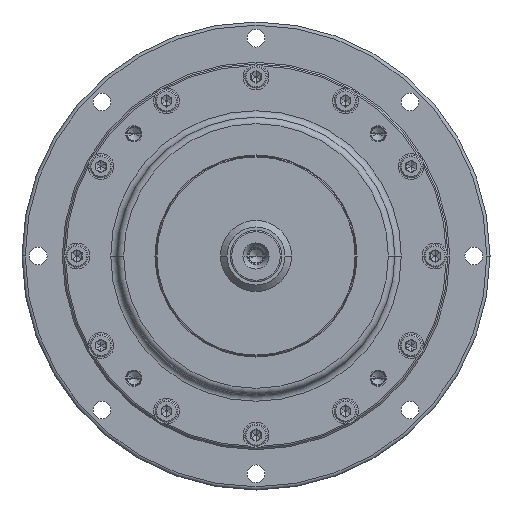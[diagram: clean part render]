
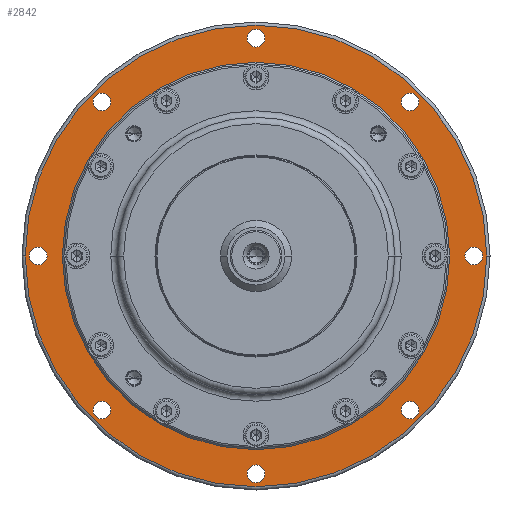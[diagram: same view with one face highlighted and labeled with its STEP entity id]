
A CAD part, left-side view. The second image highlights one B-rep face of the part: STEP entity #2842.
In plain terms, the highlighted planar face has unit normal (-1, 0, 0).
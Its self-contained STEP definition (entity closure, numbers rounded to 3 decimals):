
#181=CARTESIAN_POINT('',(-8.,47.73,-47.73));
#182=DIRECTION('',(-1.,0.,0.));
#183=DIRECTION('',(0.,-1.,0.));
#184=AXIS2_PLACEMENT_3D('',#181,#182,#183);
#186=CARTESIAN_POINT('',(-8.,47.73,-47.73));
#187=DIRECTION('',(-1.,0.,0.));
#188=DIRECTION('',(0.,1.,0.));
#189=AXIS2_PLACEMENT_3D('',#186,#187,#188);
#191=CARTESIAN_POINT('',(-8.,0.,-67.5));
#192=DIRECTION('',(-1.,0.,0.));
#193=DIRECTION('',(0.,-1.,0.));
#194=AXIS2_PLACEMENT_3D('',#191,#192,#193);
#196=CARTESIAN_POINT('',(-8.,0.,-67.5));
#197=DIRECTION('',(-1.,0.,0.));
#198=DIRECTION('',(0.,1.,0.));
#199=AXIS2_PLACEMENT_3D('',#196,#197,#198);
#201=CARTESIAN_POINT('',(-8.,-47.73,-47.73));
#202=DIRECTION('',(-1.,0.,0.));
#203=DIRECTION('',(0.,-1.,0.));
#204=AXIS2_PLACEMENT_3D('',#201,#202,#203);
#206=CARTESIAN_POINT('',(-8.,-47.73,-47.73));
#207=DIRECTION('',(-1.,0.,0.));
#208=DIRECTION('',(0.,1.,0.));
#209=AXIS2_PLACEMENT_3D('',#206,#207,#208);
#211=CARTESIAN_POINT('',(-8.,-67.5,0.));
#212=DIRECTION('',(-1.,0.,0.));
#213=DIRECTION('',(0.,-1.,0.));
#214=AXIS2_PLACEMENT_3D('',#211,#212,#213);
#216=CARTESIAN_POINT('',(-8.,-67.5,0.));
#217=DIRECTION('',(-1.,0.,0.));
#218=DIRECTION('',(0.,1.,0.));
#219=AXIS2_PLACEMENT_3D('',#216,#217,#218);
#221=CARTESIAN_POINT('',(-8.,-47.73,47.73));
#222=DIRECTION('',(-1.,0.,0.));
#223=DIRECTION('',(0.,-1.,0.));
#224=AXIS2_PLACEMENT_3D('',#221,#222,#223);
#226=CARTESIAN_POINT('',(-8.,-47.73,47.73));
#227=DIRECTION('',(-1.,0.,0.));
#228=DIRECTION('',(0.,1.,0.));
#229=AXIS2_PLACEMENT_3D('',#226,#227,#228);
#231=CARTESIAN_POINT('',(-8.,0.,67.5));
#232=DIRECTION('',(-1.,0.,0.));
#233=DIRECTION('',(0.,-1.,0.));
#234=AXIS2_PLACEMENT_3D('',#231,#232,#233);
#236=CARTESIAN_POINT('',(-8.,0.,67.5));
#237=DIRECTION('',(-1.,0.,0.));
#238=DIRECTION('',(0.,1.,0.));
#239=AXIS2_PLACEMENT_3D('',#236,#237,#238);
#241=CARTESIAN_POINT('',(-8.,47.73,47.73));
#242=DIRECTION('',(-1.,0.,0.));
#243=DIRECTION('',(0.,-1.,0.));
#244=AXIS2_PLACEMENT_3D('',#241,#242,#243);
#246=CARTESIAN_POINT('',(-8.,47.73,47.73));
#247=DIRECTION('',(-1.,0.,0.));
#248=DIRECTION('',(0.,1.,0.));
#249=AXIS2_PLACEMENT_3D('',#246,#247,#248);
#251=CARTESIAN_POINT('',(-8.,67.5,0.));
#252=DIRECTION('',(-1.,0.,0.));
#253=DIRECTION('',(0.,-1.,0.));
#254=AXIS2_PLACEMENT_3D('',#251,#252,#253);
#256=CARTESIAN_POINT('',(-8.,67.5,0.));
#257=DIRECTION('',(-1.,0.,0.));
#258=DIRECTION('',(0.,1.,0.));
#259=AXIS2_PLACEMENT_3D('',#256,#257,#258);
#321=CARTESIAN_POINT('',(-8.,0.,0.));
#322=DIRECTION('',(-1.,0.,0.));
#323=DIRECTION('',(0.,1.,0.));
#324=AXIS2_PLACEMENT_3D('',#321,#322,#323);
#340=CARTESIAN_POINT('',(-8.,0.,0.));
#341=DIRECTION('',(1.,0.,0.));
#342=DIRECTION('',(0.,1.,0.));
#343=AXIS2_PLACEMENT_3D('',#340,#341,#342);
#1145=CARTESIAN_POINT('',(-8.,0.,0.));
#1146=DIRECTION('',(-1.,0.,0.));
#1147=DIRECTION('',(0.,-1.,0.));
#1148=AXIS2_PLACEMENT_3D('',#1145,#1146,#1147);
#1160=CARTESIAN_POINT('',(-8.,0.,0.));
#1161=DIRECTION('',(-1.,0.,0.));
#1162=DIRECTION('',(0.,1.,0.));
#1163=AXIS2_PLACEMENT_3D('',#1160,#1161,#1162);
#2021=CARTESIAN_POINT('',(-8.,60.,0.));
#2022=CARTESIAN_POINT('',(-8.,-60.,0.));
#2023=VERTEX_POINT('',#2021);
#2024=VERTEX_POINT('',#2022);
#2029=CARTESIAN_POINT('',(-8.,64.75,0.));
#2030=CARTESIAN_POINT('',(-8.,70.25,0.));
#2031=VERTEX_POINT('',#2029);
#2032=VERTEX_POINT('',#2030);
#2037=CARTESIAN_POINT('',(-8.,44.98,47.73));
#2038=CARTESIAN_POINT('',(-8.,50.48,47.73));
#2039=VERTEX_POINT('',#2037);
#2040=VERTEX_POINT('',#2038);
#2045=CARTESIAN_POINT('',(-8.,-2.75,67.5));
#2046=CARTESIAN_POINT('',(-8.,2.75,67.5));
#2047=VERTEX_POINT('',#2045);
#2048=VERTEX_POINT('',#2046);
#2053=CARTESIAN_POINT('',(-8.,-50.48,47.73));
#2054=CARTESIAN_POINT('',(-8.,-44.98,47.73));
#2055=VERTEX_POINT('',#2053);
#2056=VERTEX_POINT('',#2054);
#2061=CARTESIAN_POINT('',(-8.,-70.25,0.));
#2062=CARTESIAN_POINT('',(-8.,-64.75,0.));
#2063=VERTEX_POINT('',#2061);
#2064=VERTEX_POINT('',#2062);
#2069=CARTESIAN_POINT('',(-8.,-50.48,-47.73));
#2070=CARTESIAN_POINT('',(-8.,-44.98,-47.73));
#2071=VERTEX_POINT('',#2069);
#2072=VERTEX_POINT('',#2070);
#2077=CARTESIAN_POINT('',(-8.,-2.75,-67.5));
#2078=CARTESIAN_POINT('',(-8.,2.75,-67.5));
#2079=VERTEX_POINT('',#2077);
#2080=VERTEX_POINT('',#2078);
#2085=CARTESIAN_POINT('',(-8.,44.98,-47.73));
#2086=CARTESIAN_POINT('',(-8.,50.48,-47.73));
#2087=VERTEX_POINT('',#2085);
#2088=VERTEX_POINT('',#2086);
#2113=CARTESIAN_POINT('',(-8.,-71.5,0.));
#2114=CARTESIAN_POINT('',(-8.,71.5,0.));
#2115=VERTEX_POINT('',#2113);
#2116=VERTEX_POINT('',#2114);
#2779=CARTESIAN_POINT('',(-8.,0.,0.));
#2780=DIRECTION('',(1.,0.,0.));
#2781=DIRECTION('',(0.,-1.,0.));
#2782=AXIS2_PLACEMENT_3D('',#2779,#2780,#2781);
#2783=PLANE('',#2782);
#2785=ORIENTED_EDGE('',*,*,#2784,.F.);
#2787=ORIENTED_EDGE('',*,*,#2786,.F.);
#2788=EDGE_LOOP('',(#2785,#2787));
#2789=FACE_OUTER_BOUND('',#2788,.F.);
#2790=ORIENTED_EDGE('',*,*,#2759,.T.);
#2791=ORIENTED_EDGE('',*,*,#2773,.T.);
#2792=EDGE_LOOP('',(#2790,#2791));
#2793=FACE_BOUND('',#2792,.F.);
#2795=ORIENTED_EDGE('',*,*,#2794,.T.);
#2797=ORIENTED_EDGE('',*,*,#2796,.T.);
#2798=EDGE_LOOP('',(#2795,#2797));
#2799=FACE_BOUND('',#2798,.F.);
#2801=ORIENTED_EDGE('',*,*,#2800,.T.);
#2803=ORIENTED_EDGE('',*,*,#2802,.T.);
#2804=EDGE_LOOP('',(#2801,#2803));
#2805=FACE_BOUND('',#2804,.F.);
#2807=ORIENTED_EDGE('',*,*,#2806,.T.);
#2809=ORIENTED_EDGE('',*,*,#2808,.T.);
#2810=EDGE_LOOP('',(#2807,#2809));
#2811=FACE_BOUND('',#2810,.F.);
#2813=ORIENTED_EDGE('',*,*,#2812,.T.);
#2815=ORIENTED_EDGE('',*,*,#2814,.T.);
#2816=EDGE_LOOP('',(#2813,#2815));
#2817=FACE_BOUND('',#2816,.F.);
#2819=ORIENTED_EDGE('',*,*,#2818,.T.);
#2821=ORIENTED_EDGE('',*,*,#2820,.T.);
#2822=EDGE_LOOP('',(#2819,#2821));
#2823=FACE_BOUND('',#2822,.F.);
#2825=ORIENTED_EDGE('',*,*,#2824,.T.);
#2827=ORIENTED_EDGE('',*,*,#2826,.T.);
#2828=EDGE_LOOP('',(#2825,#2827));
#2829=FACE_BOUND('',#2828,.F.);
#2831=ORIENTED_EDGE('',*,*,#2830,.T.);
#2833=ORIENTED_EDGE('',*,*,#2832,.F.);
#2834=EDGE_LOOP('',(#2831,#2833));
#2835=FACE_BOUND('',#2834,.F.);
#2837=ORIENTED_EDGE('',*,*,#2836,.T.);
#2839=ORIENTED_EDGE('',*,*,#2838,.T.);
#2840=EDGE_LOOP('',(#2837,#2839));
#2841=FACE_BOUND('',#2840,.F.);
#2842=ADVANCED_FACE('',(#2789,#2793,#2799,#2805,#2811,#2817,#2823,#2829,#2835,
#2841),#2783,.F.);
#185=CIRCLE('',#184,2.75);
#190=CIRCLE('',#189,2.75);
#195=CIRCLE('',#194,2.75);
#200=CIRCLE('',#199,2.75);
#205=CIRCLE('',#204,2.75);
#210=CIRCLE('',#209,2.75);
#215=CIRCLE('',#214,2.75);
#220=CIRCLE('',#219,2.75);
#225=CIRCLE('',#224,2.75);
#230=CIRCLE('',#229,2.75);
#235=CIRCLE('',#234,2.75);
#240=CIRCLE('',#239,2.75);
#245=CIRCLE('',#244,2.75);
#250=CIRCLE('',#249,2.75);
#255=CIRCLE('',#254,2.75);
#260=CIRCLE('',#259,2.75);
#325=CIRCLE('',#324,60.);
#344=CIRCLE('',#343,60.);
#1149=CIRCLE('',#1148,71.5);
#1164=CIRCLE('',#1163,71.5);
#2759=EDGE_CURVE('',#2087,#2088,#185,.T.);
#2773=EDGE_CURVE('',#2088,#2087,#190,.T.);
#2784=EDGE_CURVE('',#2115,#2116,#1149,.T.);
#2786=EDGE_CURVE('',#2116,#2115,#1164,.T.);
#2794=EDGE_CURVE('',#2079,#2080,#195,.T.);
#2796=EDGE_CURVE('',#2080,#2079,#200,.T.);
#2800=EDGE_CURVE('',#2071,#2072,#205,.T.);
#2802=EDGE_CURVE('',#2072,#2071,#210,.T.);
#2806=EDGE_CURVE('',#2063,#2064,#215,.T.);
#2808=EDGE_CURVE('',#2064,#2063,#220,.T.);
#2812=EDGE_CURVE('',#2055,#2056,#225,.T.);
#2814=EDGE_CURVE('',#2056,#2055,#230,.T.);
#2818=EDGE_CURVE('',#2047,#2048,#235,.T.);
#2820=EDGE_CURVE('',#2048,#2047,#240,.T.);
#2824=EDGE_CURVE('',#2039,#2040,#245,.T.);
#2826=EDGE_CURVE('',#2040,#2039,#250,.T.);
#2830=EDGE_CURVE('',#2023,#2024,#325,.T.);
#2832=EDGE_CURVE('',#2023,#2024,#344,.T.);
#2836=EDGE_CURVE('',#2031,#2032,#255,.T.);
#2838=EDGE_CURVE('',#2032,#2031,#260,.T.);
